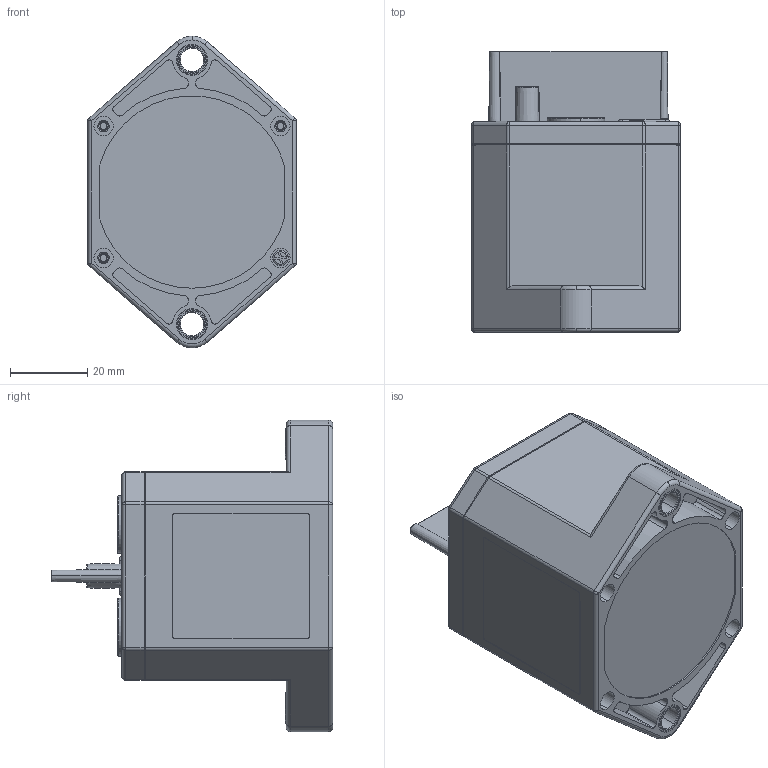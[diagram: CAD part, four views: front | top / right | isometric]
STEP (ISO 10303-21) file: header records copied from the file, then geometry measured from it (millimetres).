
FILE_DESCRIPTION (( 'STEP AP214' ), '1' );
FILE_NAME ('NDZ3AT-400R陔耀倰.STEP', '2024-12-16T02:04:51', ( '' ), ( '' ), 'SwSTEP 2.0', 'SolidWorks 2018', '' );
FILE_SCHEMA (( 'AUTOMOTIVE_DESIGN' ));
Length unit declared in the file: millimetre
Products named in the file (7): 8LD.005.0213_衄落翑; 5LD.022.0029; NDZ3AT-400R陔耀倰; GB 845 ST2.2X13; 囀窒軞蚾 - 1; 5LD.004.0017; 8LD.553.0021
Assembly tree (7 placements, depth 4):
  NDZ3AT-400R陔耀倰
    5LD.022.0029
    囀窒軞蚾 - 1
      5LD.004.0017
        8LD.553.0021  x2
    8LD.005.0213_衄落翑
    GB 845 ST2.2X13
Bounding box: 54 x 72.8 x 80.7 mm (x, y, z)
Volume: 34199.7 mm3; surface area: 45856.2 mm2
Topology: 7 solids, 7 shells, 891 faces, 2267 edges, 1411 vertices
Faces by surface type: plane 390, cylinder 333, torus 74, cone 47, bspline 24, sphere 23
Entity records: 27677 total; most frequent: CARTESIAN_POINT 6032, DIRECTION 4607, ORIENTED_EDGE 4398, EDGE_CURVE 2199, AXIS2_PLACEMENT_3D 1660, VERTEX_POINT 1387, LINE 1287, VECTOR 1287
